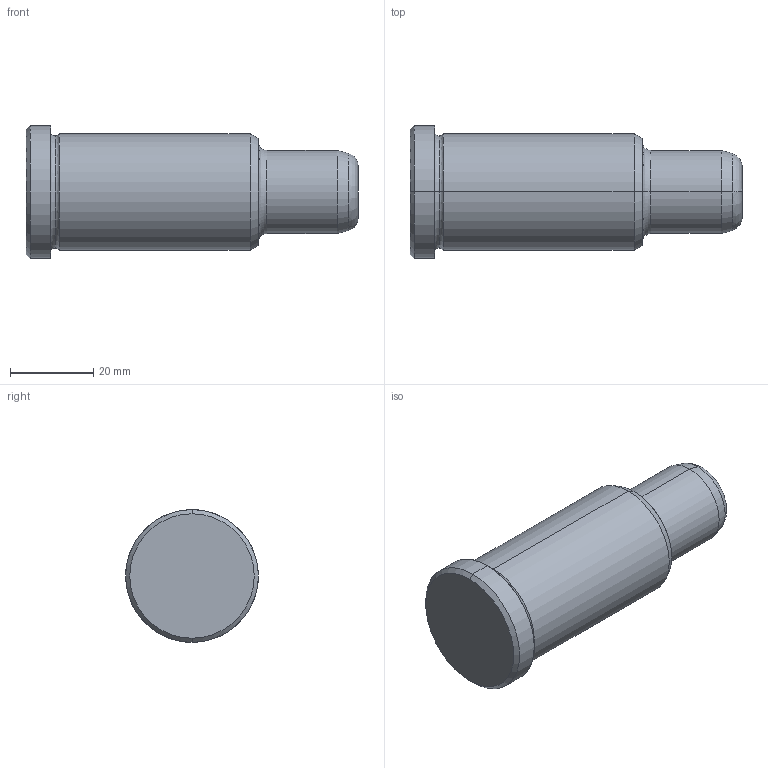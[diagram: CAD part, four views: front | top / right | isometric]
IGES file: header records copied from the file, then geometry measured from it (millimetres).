
Start section: START RECORD GO HERE.
Global section: file name: 351-20X56X80.igs; native system: DASSAULT SYSTEMES CATIA V5 R20 - www.3ds.com; preprocessor: CATIA Version 5 Release 20 ; author: Utente; organization: NB04-ASUS; date: 20210827.145136; units: millimetre
Bounding box: 80 x 32 x 32 mm (x, y, z)
Surface area: 7821.6 mm2 (no closed solid volume)
Topology: 0 solids, 0 shells, 24 faces, 140 edges, 140 vertices
Faces by surface type: revolution 20, plane 4
